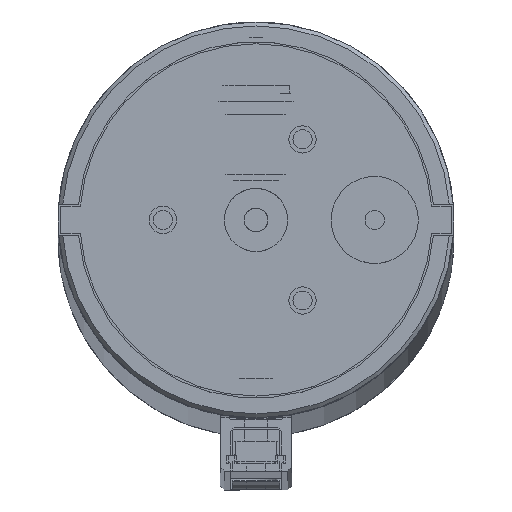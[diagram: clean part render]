
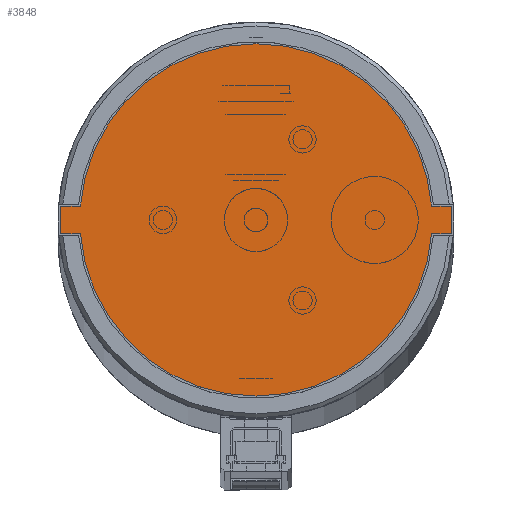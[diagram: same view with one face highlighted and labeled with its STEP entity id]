
A CAD part, top view. The second image highlights one B-rep face of the part: STEP entity #3848.
In plain terms, the highlighted planar face has unit normal (0, 0, 1) as drawn and (0, 1, 0) by its records, which use the part's own axes.
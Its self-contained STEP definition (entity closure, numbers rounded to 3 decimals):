
#322=CIRCLE('',#4311,22.25);
#324=CIRCLE('',#4315,24.75);
#326=CIRCLE('',#4319,22.25);
#328=CIRCLE('',#4323,24.75);
#503=FACE_OUTER_BOUND('',#724,.T.);
#724=EDGE_LOOP('',(#2776,#2777,#2778,#2779,#2780,#2781,#2782,#2783));
#988=LINE('',#6158,#1345);
#993=LINE('',#6172,#1350);
#997=LINE('',#6184,#1354);
#1001=LINE('',#6196,#1358);
#1345=VECTOR('',#4857,10.);
#1350=VECTOR('',#4870,10.);
#1354=VECTOR('',#4882,10.);
#1358=VECTOR('',#4894,10.);
#1702=VERTEX_POINT('',#6156);
#1703=VERTEX_POINT('',#6157);
#1706=VERTEX_POINT('',#6165);
#1708=VERTEX_POINT('',#6171);
#1710=VERTEX_POINT('',#6177);
#1712=VERTEX_POINT('',#6183);
#1714=VERTEX_POINT('',#6189);
#1716=VERTEX_POINT('',#6195);
#2098=EDGE_CURVE('',#1702,#1703,#988,.T.);
#2102=EDGE_CURVE('',#1703,#1706,#322,.T.);
#2105=EDGE_CURVE('',#1706,#1708,#993,.T.);
#2108=EDGE_CURVE('',#1708,#1710,#324,.T.);
#2111=EDGE_CURVE('',#1710,#1712,#997,.T.);
#2114=EDGE_CURVE('',#1712,#1714,#326,.T.);
#2117=EDGE_CURVE('',#1714,#1716,#1001,.T.);
#2120=EDGE_CURVE('',#1716,#1702,#328,.T.);
#2776=ORIENTED_EDGE('',*,*,#2098,.F.);
#2777=ORIENTED_EDGE('',*,*,#2120,.F.);
#2778=ORIENTED_EDGE('',*,*,#2117,.F.);
#2779=ORIENTED_EDGE('',*,*,#2114,.F.);
#2780=ORIENTED_EDGE('',*,*,#2111,.F.);
#2781=ORIENTED_EDGE('',*,*,#2108,.F.);
#2782=ORIENTED_EDGE('',*,*,#2105,.F.);
#2783=ORIENTED_EDGE('',*,*,#2102,.F.);
#3702=PLANE('',#4325);
#3848=ADVANCED_FACE('',(#503),#3702,.T.);
#4311=AXIS2_PLACEMENT_3D('',#6166,#4863,#4864);
#4315=AXIS2_PLACEMENT_3D('',#6178,#4875,#4876);
#4319=AXIS2_PLACEMENT_3D('',#6190,#4887,#4888);
#4323=AXIS2_PLACEMENT_3D('',#6201,#4899,#4900);
#4325=AXIS2_PLACEMENT_3D('',#6203,#4903,#4904);
#4857=DIRECTION('',(-1.,0.,0.));
#4863=DIRECTION('center_axis',(0.,-1.,0.));
#4864=DIRECTION('ref_axis',(0.997,0.,-0.079));
#4870=DIRECTION('',(-1.,0.,0.));
#4875=DIRECTION('center_axis',(0.,-1.,0.));
#4876=DIRECTION('ref_axis',(0.997,0.,0.071));
#4882=DIRECTION('',(1.,0.,0.));
#4887=DIRECTION('center_axis',(0.,-1.,0.));
#4888=DIRECTION('ref_axis',(-0.997,0.,0.079));
#4894=DIRECTION('',(1.,0.,0.));
#4899=DIRECTION('center_axis',(0.,-1.,0.));
#4900=DIRECTION('ref_axis',(-0.997,0.,-0.071));
#4903=DIRECTION('center_axis',(0.,1.,0.));
#4904=DIRECTION('ref_axis',(0.,0.,1.));
#6156=CARTESIAN_POINT('',(24.688,0.8,1.75));
#6157=CARTESIAN_POINT('',(22.181,0.8,1.75));
#6158=CARTESIAN_POINT('',(24.688,0.8,1.75));
#6165=CARTESIAN_POINT('',(-22.181,0.8,1.75));
#6166=CARTESIAN_POINT('Origin',(0.,0.8,0.));
#6171=CARTESIAN_POINT('',(-24.688,0.8,1.75));
#6172=CARTESIAN_POINT('',(-22.181,0.8,1.75));
#6177=CARTESIAN_POINT('',(-24.688,0.8,-1.75));
#6178=CARTESIAN_POINT('Origin',(0.,0.8,0.));
#6183=CARTESIAN_POINT('',(-22.181,0.8,-1.75));
#6184=CARTESIAN_POINT('',(-24.688,0.8,-1.75));
#6189=CARTESIAN_POINT('',(22.181,0.8,-1.75));
#6190=CARTESIAN_POINT('Origin',(0.,0.8,0.));
#6195=CARTESIAN_POINT('',(24.688,0.8,-1.75));
#6196=CARTESIAN_POINT('',(22.181,0.8,-1.75));
#6201=CARTESIAN_POINT('Origin',(0.,0.8,0.));
#6203=CARTESIAN_POINT('Origin',(0.,0.8,0.));
